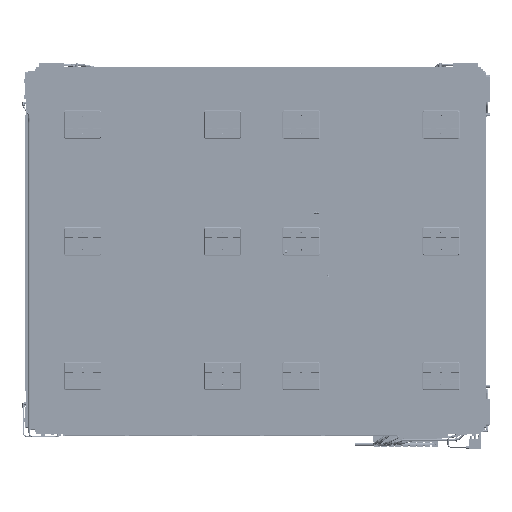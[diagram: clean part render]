
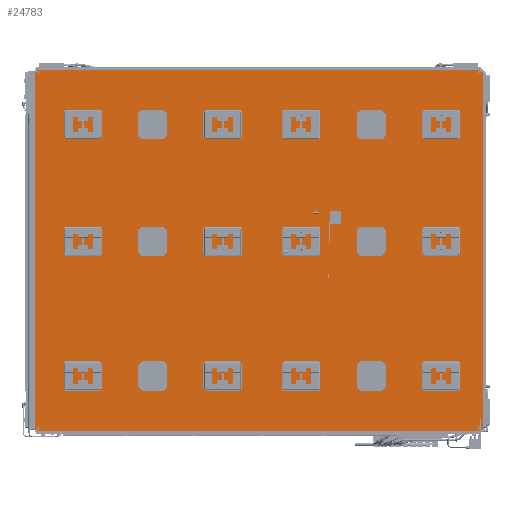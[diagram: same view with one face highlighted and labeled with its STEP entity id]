
A CAD part, front view. The second image highlights one B-rep face of the part: STEP entity #24783.
In plain terms, the highlighted planar face has unit normal (0, -1, 0) as drawn and (-1, 0, 0) by its records, which use the part's own axes.
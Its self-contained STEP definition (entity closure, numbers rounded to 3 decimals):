
#24783=ADVANCED_FACE('',(#39500),#31560,.T.);
#31560=PLANE('',#207114);
#39500=FACE_OUTER_BOUND('',#50788,.T.);
#50788=EDGE_LOOP('',(#87485,#87486,#87487,#87488));
#87485=ORIENTED_EDGE('',*,*,#126827,.F.);
#87486=ORIENTED_EDGE('',*,*,#126828,.F.);
#87487=ORIENTED_EDGE('',*,*,#126829,.F.);
#87488=ORIENTED_EDGE('',*,*,#126830,.F.);
#106443=VERTEX_POINT('',#340631);
#106444=VERTEX_POINT('',#340632);
#106445=VERTEX_POINT('',#340635);
#106446=VERTEX_POINT('',#340640);
#126827=EDGE_CURVE('',#106443,#106444,#140669,.T.);
#126828=EDGE_CURVE('',#106445,#106443,#140670,.T.);
#126829=EDGE_CURVE('',#106446,#106445,#140671,.T.);
#126830=EDGE_CURVE('',#106444,#106446,#140672,.T.);
#140669=B_SPLINE_CURVE_WITH_KNOTS('',1,(#340629,#340630),.UNSPECIFIED.,
 .F.,.F.,(2,2),(0.,1.),.UNSPECIFIED.);
#140670=B_SPLINE_CURVE_WITH_KNOTS('',1,(#340633,#340634),.UNSPECIFIED.,
 .F.,.F.,(2,2),(0.,1.),.UNSPECIFIED.);
#140671=B_SPLINE_CURVE_WITH_KNOTS('',3,(#340636,#340637,#340638,#340639),
 .UNSPECIFIED.,.F.,.F.,(4,4),(0.,1.),.UNSPECIFIED.);
#140672=B_SPLINE_CURVE_WITH_KNOTS('',1,(#340641,#340642),.UNSPECIFIED.,
 .F.,.F.,(2,2),(0.,1.),.UNSPECIFIED.);
#207114=AXIS2_PLACEMENT_3D('',#340643,#241463,#241464);
#241463=DIRECTION('',(-1.,0.,0.));
#241464=DIRECTION('',(0.,0.,1.));
#340629=CARTESIAN_POINT('',(6052.5,1742.8,-6590.));
#340630=CARTESIAN_POINT('',(6052.5,1742.8,-4094.));
#340631=CARTESIAN_POINT('',(6052.5,1742.8,-6590.));
#340632=CARTESIAN_POINT('',(6052.5,1742.8,-4094.));
#340633=CARTESIAN_POINT('',(6052.5,-1331.2,-6590.));
#340634=CARTESIAN_POINT('',(6052.5,1742.8,-6590.));
#340635=CARTESIAN_POINT('',(6052.5,-1331.2,-6590.));
#340636=CARTESIAN_POINT('',(6052.5,-1331.2,-4094.));
#340637=CARTESIAN_POINT('',(6052.5,-1331.2,-4926.));
#340638=CARTESIAN_POINT('',(6052.5,-1331.2,-5758.));
#340639=CARTESIAN_POINT('',(6052.5,-1331.2,-6590.));
#340640=CARTESIAN_POINT('',(6052.5,-1331.2,-4094.));
#340641=CARTESIAN_POINT('',(6052.5,1742.8,-4094.));
#340642=CARTESIAN_POINT('',(6052.5,-1331.2,-4094.));
#340643=CARTESIAN_POINT('',(6052.5,205.8,-5342.));
